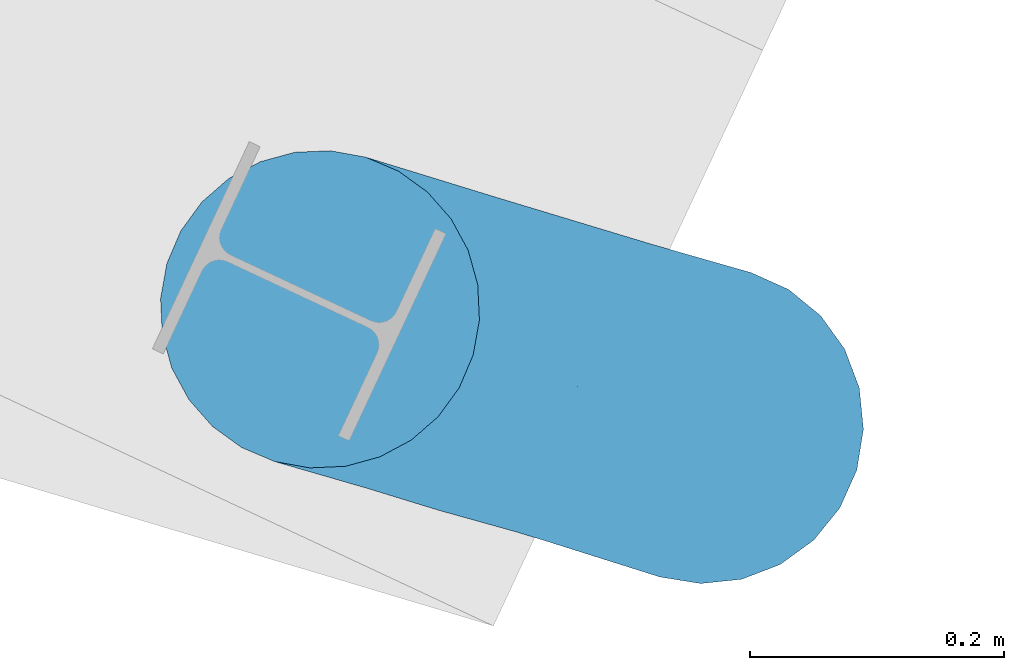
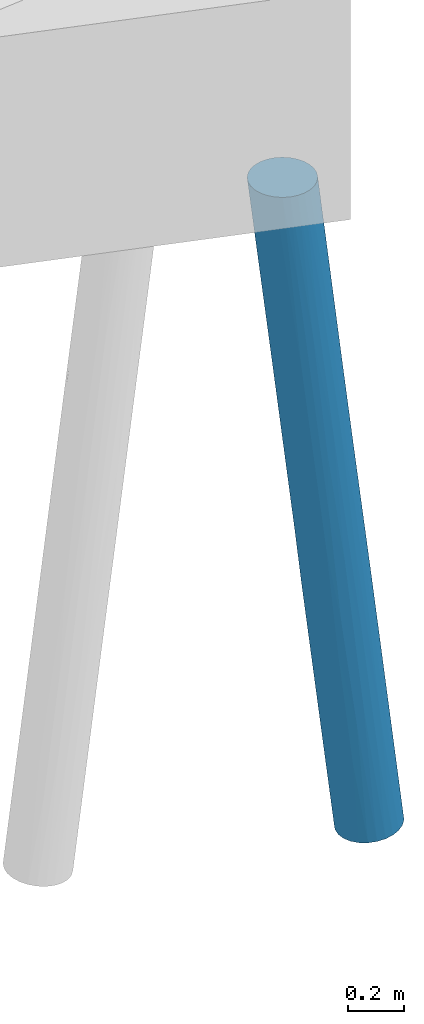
# One storey, part 18 of 46: 1 pile.
"""IFC2X3 building model written with IfcOpenShell, lengths in millimetres."""

from ifc_helpers import new_model, entity, si_unit, converted_unit, derived_unit, direction, frame, origin, place, context, subcontext, project, spatial, faceted_brep, source, transform, mapped, material, type_object, type_shapes, element, save


model = new_model("IFC2X3")

# Units and contexts
model_context = context("Model", 3, precision=0.01, world=origin(), true_north=direction((6.123233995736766e-17, 1.0)))
body_context = subcontext(model_context, "Body", "Model", "MODEL_VIEW")
ifc_project = project(units=[si_unit("LENGTHUNIT", "METRE", prefix="MILLI"), converted_unit("PLANEANGLEUNIT", "DEGREE", entity("IfcPlaneAngleMeasure", 0.017453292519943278), si_unit("PLANEANGLEUNIT", "RADIAN"), dimensions=[0, 0, 0, 0, 0, 0, 0]), si_unit("AREAUNIT", "SQUARE_METRE"), derived_unit("THERMALTRANSMITTANCEUNIT", [(si_unit("MASSUNIT", "GRAM", prefix="KILO"), 1), (si_unit("THERMODYNAMICTEMPERATUREUNIT", "KELVIN"), -1), (si_unit("TIMEUNIT", "SECOND"), -3)])], contexts=[model_context])

# Site, building, storey
site_placement = place(None, frame((-72937.88054949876, 11621.45624098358, 0.0), z_axis=(0.0, 0.0, 1.0), x_axis=(0.9346418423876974, -0.35559053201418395, 0.0)))
site = spatial("IfcSite", under=ifc_project, at=site_placement, Name="Default", CompositionType="ELEMENT")
building_placement = place(site_placement, origin())
building = spatial("IfcBuilding", under=site, at=building_placement, CompositionType="ELEMENT")
storey_placement = place(building_placement, origin())
storey = spatial("IfcBuildingStorey", under=building, at=storey_placement, Name="00 begane grond", CompositionType="ELEMENT", Elevation=0.0)

# Pile
ifc_material = material(Name="beton_gewapend_prefab-element_c45/55")
type_product = type_object("IfcTypeProduct", Name="Type 01", material=ifc_material)
shared_shape = source(origin(), body_context, "Body", "Brep", [
    faceted_brep([(72.36643070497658, 41.239861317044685, -1587.2480771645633), (115.53639022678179, 54.2354673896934, -1150.0), (124.838162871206, 27.815116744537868, -1150.0), (-182.0787577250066, 65.1457063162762, -1842.6627389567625), (-165.1894529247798, 41.33003827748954, -1588.4448595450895), (-111.09194578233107, 54.23546738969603, -1150.0), (15.031797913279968, 88.27496307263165, -1836.1297740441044), (32.98344934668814, 64.94314047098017, -1840.3127773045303), (-30.14575159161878, 64.60051474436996, -2410.3553271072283), (41.77006032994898, 0.0, -1925.992599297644), (80.6380595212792, 97.7289353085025, -1150.0), (100.55257203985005, 77.9362252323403, -1150.0), (-175.6519081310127, 115.48494156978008, -3184.035406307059), (-108.17343100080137, 106.74566752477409, -2732.5343267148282), (-180.54618184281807, 99.16916754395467, -3483.986786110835), (30.20851053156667, 121.8659890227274, -1150.0), (56.79144948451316, 112.62110848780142, -1150.0), (-42.91884640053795, 117.90464735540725, -1932.2038124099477), (-120.39371842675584, 27.81511674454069, -1150.0), (-245.70385641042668, 64.88368548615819, -2413.8437241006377), (-162.25875578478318, 88.50075404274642, -1830.9574517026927), (-242.98263969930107, 88.62069146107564, -2558.5627355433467), (-151.93048965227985, 53.33845094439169, -3561.073967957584), (-133.56769714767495, 28.49629953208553, -3474.2266886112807), (-194.4421984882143, 32.35238063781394, -4013.333582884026), (12.222467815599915, 106.275938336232, -1655.8961403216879), (-73.06982999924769, 124.27812918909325, -1949.1011896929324), (-80.64748703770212, 124.23668125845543, -1770.9263967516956), (-23.427620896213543, 124.20079095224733, -1508.6429901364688), (-240.21076201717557, 123.93060767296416, -3479.642475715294), (-314.4444444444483, 125.0, -4000.0), (-265.024992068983, 123.93060767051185, -3407.479310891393), (-117.33081280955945, 0.0, -3357.900457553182), (-190.20897761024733, 0.0, -4013.803940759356), (2.2222222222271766, 125.0, -1150.0), (-25.764066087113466, 121.86598902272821, -1150.0), (-326.96702366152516, 47.83542903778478, -3066.942589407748), (-375.2689438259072, 28.366113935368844, -3445.0277270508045), (-317.9689709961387, 23.60182842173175, -2920.157783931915), (-73.70805836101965, 23.187811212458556, -2945.6497765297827), (-39.92708990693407, 41.47720200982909, -2597.136214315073), (16.085837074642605, 41.18767244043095, -2093.938466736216), (-196.28435151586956, 123.47165352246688, -2760.095105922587), (-183.665203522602, 123.01104339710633, -3024.1067526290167), (-226.59670338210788, 88.38834764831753, -4009.7608601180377), (-252.3267110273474, 108.25317547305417, -4006.901970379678), (-148.27550792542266, 76.09517863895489, -3402.494577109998), (-206.8533741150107, 62.49999999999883, -4011.9545633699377), (-52.347005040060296, 112.62110848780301, -1150.0), (-99.40312932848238, 118.21391771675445, -1696.7443345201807), (-119.74622127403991, 106.37235269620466, -1653.229951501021), (-185.92128902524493, 102.46025049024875, -2194.904710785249), (-238.2779479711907, 106.2597512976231, -2718.3665211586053), (-42.820885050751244, 102.58547775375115, -2202.1491422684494), (-156.2252162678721, 118.09364807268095, -2204.9892079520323), (-319.0271104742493, 115.48494156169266, -3608.075760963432), (-264.72929865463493, 115.48494155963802, -3119.3954545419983), (-96.10812759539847, 77.93622523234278, -1150.0), (-76.19361507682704, 97.72893530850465, -1150.0), (-1.3402226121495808, 0.0, -2313.985145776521), (-44.451993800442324, 0.0, -2701.9910864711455), (-292.6922084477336, 91.63383624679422, -3034.349570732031), (-292.9202820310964, 72.79893776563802, -2886.1326580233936), (-227.31882224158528, 115.48494156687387, -3649.0376333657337), (-282.2899395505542, 120.74072828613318, -4003.5727227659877), (-221.60043037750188, 41.38232604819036, -2096.309657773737), (-209.76851175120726, 0.0, -1925.9934634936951), (-346.59894933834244, 120.74072828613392, -3996.4272772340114), (-376.56217786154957, 108.25317547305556, -3993.0980296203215), (-66.21715172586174, 88.15377228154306, -2568.4634430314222), (-129.97696806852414, 118.32629651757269, -2704.701988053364), (-123.5470158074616, 0.0, -1150.0), (-345.703852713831, 76.09517862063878, -3383.3196685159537), (-377.5274465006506, 52.979842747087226, -3542.5215927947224), (-275.88856858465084, 42.22399193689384, -2587.6075033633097), (-402.29218550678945, 88.38834764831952, -3990.239139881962), (-422.0355147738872, 62.50000000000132, -3988.0454366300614), (-331.8470727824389, 99.16916753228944, -3467.5525053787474), (-132.44344591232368, 124.68323586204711, -2281.458802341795), (-89.11715414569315, 71.65077909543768, -2899.5648185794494), (-96.52658231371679, 47.8354290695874, -3084.4998642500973), (127.99146025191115, 0.0, -1150.0), (-252.87925972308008, 0.0, -2313.9901952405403), (-122.93481462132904, 90.89446365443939, -3053.447507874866), (-438.679911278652, 0.0, -3986.1960592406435), (-434.4466904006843, 32.352380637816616, -3986.6664171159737), (-141.73877836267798, 124.16072599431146, -2576.5969257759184), (-210.06991733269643, 117.23436667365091, -2667.881922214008), (-367.33495948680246, 0.0, -3344.091493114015), (-295.9900076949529, 0.0, -2701.9869269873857), (-120.39371842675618, -27.815116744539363, -1150.0), (-111.09194578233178, -54.23546738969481, -1150.0), (-96.10812759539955, -77.93622523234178, -1150.0), (-76.1936150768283, -97.72893530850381, -1150.0), (-52.34700504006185, -112.62110848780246, -1150.0), (-25.76406608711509, -121.86598902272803, -1150.0), (2.222222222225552, -125.0, -1150.0), (30.20851053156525, -121.86598902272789, -1150.0), (56.79144948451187, -112.62110848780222, -1150.0), (80.63805952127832, -97.7289353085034, -1150.0), (100.55257203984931, -77.93622523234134, -1150.0), (115.53639022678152, -54.23546738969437, -1150.0), (124.83816287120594, -27.815116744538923, -1150.0), (-151.9304895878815, -53.338451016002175, -3561.073967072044), (-133.5676976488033, -28.496299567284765, -3474.2266930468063), (-96.52658225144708, -47.83542901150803, -3084.4998639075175), (-140.32328536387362, -105.94191584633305, -1832.1538289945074), (-126.78568187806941, -88.44799753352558, -1511.2211246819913), (-176.7825211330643, -87.58614607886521, -1953.453255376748), (-185.53475823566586, -41.3488976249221, -1771.6124540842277), (-98.5233768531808, -124.24251446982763, -1932.2861052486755), (-221.49211536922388, -66.66107193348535, -2205.8974607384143), (-159.3540506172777, -67.83984168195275, -1653.46778938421), (-312.10423006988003, -99.16916769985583, -3289.866922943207), (-352.8086337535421, -76.09517892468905, -3447.262699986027), (-402.2921855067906, -88.38834764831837, -3990.239139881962), (-235.41358059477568, -123.93060766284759, -3436.4678436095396), (-314.44444444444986, -125.0, -4000.0), (-282.2899395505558, -120.74072828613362, -4003.5727227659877), (-384.2243809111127, -47.83542945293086, -3582.258806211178), (-328.2998352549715, -47.83542988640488, -3078.9378969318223), (-362.94366171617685, -26.27355326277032, -3329.855963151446), (-376.562177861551, -108.25317547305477, -3993.0980296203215), (-226.59670338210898, -88.38834764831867, -4009.7608601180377), (-148.27550783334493, -76.0951785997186, -3402.49457655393), (-180.54618171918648, -99.16916751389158, -3483.9867853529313), (-104.92272192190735, -118.27912572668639, -1748.1433712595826), (-163.52036571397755, -118.46525212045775, -2280.4898650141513), (-39.927089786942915, -41.4772017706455, -2597.1362139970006), (-89.11715398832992, -71.6507788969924, -2899.5648184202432), (-221.11735801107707, -106.04994682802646, -2560.8655013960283), (-274.28881423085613, -82.15433137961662, -2785.484682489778), (-434.4466904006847, -32.35238063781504, -3986.6664171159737), (-422.03551477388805, -62.49999999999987, -3988.0454366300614), (-129.97696798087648, -118.32629644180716, -2704.7019892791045), (-141.73877802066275, -124.16072595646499, -2576.596925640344), (-180.90977316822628, -122.95522291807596, -3002.087637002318), (-232.56829871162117, -117.68101498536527, -2881.4778788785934), (-242.59310629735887, -123.930607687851, -3205.592340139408), (-180.2811496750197, -124.04234815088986, -2652.6852150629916), (-346.598949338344, -120.7407282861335, -3996.4272772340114), (-301.7888662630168, -115.48494161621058, -3452.931564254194), (-206.85337411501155, -62.50000000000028, -4011.9545633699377), (-29.559553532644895, -124.19873841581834, -1563.993853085), (-83.4987298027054, -124.18127902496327, -2050.828488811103), (-42.91884618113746, -117.90464729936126, -1932.2038118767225), (-30.14575143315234, -64.60051457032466, -2410.3553266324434), (32.983449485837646, -64.94314037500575, -1840.3127765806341), (15.03179802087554, -88.27496298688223, -1836.1297738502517), (12.222467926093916, -106.27593827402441, -1655.89614023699), (-42.820884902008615, -102.58547764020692, -2202.149142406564), (-73.70805863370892, -23.18781108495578, -2945.6497792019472), (72.36643080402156, -41.2398612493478, -1587.2480764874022), (16.08583725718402, -41.18767230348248, -2093.9384655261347), (-221.94118502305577, -91.78881553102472, -2399.105716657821), (-122.93481449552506, -90.89446347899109, -3053.447508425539), (-66.2171515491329, -88.15377212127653, -2568.463442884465), (-108.173430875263, -106.74566744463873, -2732.534326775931), (-262.27997921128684, -34.77836369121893, -2443.29023072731), (-252.32671102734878, -108.25317547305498, -4006.901970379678), (-227.31882233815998, -115.48494155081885, -3649.0376345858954), (-277.036285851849, -61.03344887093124, -2675.5040755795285), (-194.44219848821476, -32.35238063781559, -4013.333582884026), (-312.1095376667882, -26.52940126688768, -2872.8494770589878), (-175.65190824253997, -115.48494153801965, -3184.0354080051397)], [[[0, 1, 2]], [[3, 4, 5]], [[6, 7, 8]], [[0, 2, 9]], [[10, 11, 6]], [[12, 13, 14]], [[15, 16, 17]], [[18, 5, 4]], [[19, 20, 21]], [[22, 23, 24]], [[25, 16, 10]], [[26, 27, 28]], [[29, 30, 31]], [[23, 32, 33]], [[7, 6, 11]], [[34, 27, 35]], [[36, 37, 38]], [[23, 39, 32]], [[40, 8, 41]], [[31, 42, 43]], [[14, 44, 45]], [[19, 3, 20]], [[34, 15, 28]], [[46, 47, 44]], [[48, 49, 50]], [[51, 52, 21]], [[17, 25, 53]], [[46, 22, 47]], [[49, 54, 50]], [[31, 55, 56]], [[20, 57, 58]], [[41, 9, 59, 60]], [[21, 61, 62]], [[41, 7, 0]], [[63, 45, 64]], [[4, 65, 66]], [[57, 3, 5]], [[50, 51, 20]], [[55, 67, 68]], [[56, 42, 31]], [[13, 53, 69]], [[12, 70, 13]], [[66, 71, 18]], [[36, 72, 73]], [[31, 30, 67]], [[36, 38, 74]], [[21, 52, 61]], [[74, 62, 36]], [[36, 73, 37]], [[72, 75, 76]], [[72, 77, 75]], [[50, 20, 58]], [[46, 44, 14]], [[7, 41, 8]], [[42, 54, 78]], [[26, 78, 27]], [[79, 40, 80]], [[9, 2, 81]], [[82, 66, 65]], [[60, 39, 40]], [[83, 14, 13]], [[77, 68, 75]], [[84, 37, 85]], [[21, 62, 19]], [[29, 64, 30]], [[31, 43, 29]], [[83, 79, 46]], [[12, 14, 63]], [[68, 77, 55]], [[77, 61, 52]], [[64, 29, 63]], [[43, 70, 12]], [[7, 11, 1]], [[41, 0, 9]], [[1, 0, 7]], [[69, 6, 8]], [[69, 8, 79]], [[40, 79, 8]], [[18, 4, 66]], [[65, 4, 3]], [[19, 65, 3]], [[20, 3, 57]], [[65, 19, 74]], [[72, 36, 62]], [[86, 42, 78]], [[52, 87, 56]], [[69, 79, 83]], [[46, 79, 80]], [[13, 69, 83]], [[14, 83, 46]], [[6, 69, 53]], [[86, 17, 70]], [[6, 53, 25]], [[17, 53, 70]], [[6, 25, 10]], [[16, 25, 17]], [[80, 40, 39]], [[40, 41, 60]], [[80, 39, 23]], [[39, 60, 32]], [[80, 23, 22]], [[24, 23, 33]], [[80, 22, 46]], [[47, 22, 24]], [[74, 19, 62]], [[77, 72, 61]], [[62, 61, 72]], [[56, 77, 52]], [[42, 56, 87]], [[20, 51, 21]], [[51, 54, 52]], [[54, 49, 27]], [[51, 50, 54]], [[48, 50, 58]], [[53, 13, 70]], [[86, 70, 43]], [[86, 43, 42]], [[29, 43, 12]], [[67, 55, 31]], [[82, 65, 74]], [[38, 88, 89, 82]], [[88, 38, 37]], [[88, 37, 84]], [[76, 85, 73]], [[37, 73, 85]], [[76, 73, 72]], [[87, 54, 42]], [[87, 52, 54]], [[82, 74, 38]], [[56, 55, 77]], [[17, 86, 26]], [[27, 78, 54]], [[78, 26, 86]], [[15, 17, 28]], [[34, 28, 27]], [[26, 28, 17]], [[45, 63, 14]], [[12, 63, 29]], [[49, 35, 27]], [[35, 49, 48]], [[48, 58, 57, 5, 18, 71, 90, 91, 92, 93, 94, 95, 96, 97, 98, 99, 100, 101, 102, 81, 2, 1, 11, 10, 16, 15, 34, 35]], [[103, 104, 105]], [[9, 81, 102]], [[106, 107, 108]], [[91, 90, 109]], [[96, 95, 110]], [[109, 111, 112]], [[113, 114, 115]], [[116, 117, 118]], [[93, 106, 94]], [[119, 120, 121]], [[122, 113, 115]], [[112, 111, 108]], [[123, 124, 125]], [[126, 127, 110]], [[88, 84, 121]], [[90, 71, 66]], [[128, 129, 105]], [[130, 131, 113]], [[127, 126, 106]], [[119, 132, 133]], [[134, 135, 136]], [[137, 138, 139]], [[122, 140, 141]], [[124, 123, 142]], [[143, 144, 145]], [[146, 147, 148]], [[149, 150, 148]], [[114, 113, 131]], [[105, 104, 151]], [[144, 134, 145]], [[152, 153, 9]], [[113, 122, 141]], [[98, 97, 145]], [[126, 95, 94]], [[99, 148, 100]], [[137, 141, 138]], [[154, 131, 130]], [[105, 151, 128]], [[138, 140, 117]], [[138, 117, 116]], [[155, 156, 157]], [[143, 97, 96]], [[66, 158, 109]], [[159, 160, 118]], [[134, 150, 145]], [[102, 101, 152]], [[105, 124, 103]], [[109, 158, 111]], [[156, 146, 148]], [[91, 112, 92]], [[156, 155, 129]], [[101, 100, 147]], [[147, 152, 101]], [[148, 99, 149]], [[150, 157, 156]], [[111, 158, 161]], [[109, 90, 66]], [[114, 133, 115]], [[113, 141, 137]], [[125, 159, 123]], [[59, 9, 153]], [[33, 104, 162]], [[156, 129, 146]], [[136, 139, 138]], [[120, 158, 163]], [[164, 116, 160]], [[133, 114, 119]], [[111, 161, 131]], [[120, 114, 161]], [[154, 108, 111]], [[130, 113, 137]], [[141, 140, 138]], [[121, 120, 163]], [[158, 66, 82, 89]], [[159, 125, 160]], [[125, 155, 157]], [[102, 152, 9]], [[153, 152, 147]], [[146, 153, 147]], [[148, 147, 100]], [[153, 146, 128]], [[124, 105, 129]], [[137, 127, 130]], [[139, 136, 135]], [[130, 127, 106]], [[139, 144, 110]], [[139, 127, 137]], [[127, 139, 110]], [[128, 146, 129]], [[125, 124, 155]], [[129, 155, 124]], [[164, 125, 157]], [[164, 157, 134]], [[148, 150, 156]], [[157, 150, 134]], [[98, 145, 149]], [[150, 149, 145]], [[98, 149, 99]], [[109, 112, 91]], [[59, 153, 128]], [[151, 32, 60]], [[32, 151, 104]], [[32, 104, 33]], [[142, 162, 103]], [[104, 103, 162]], [[142, 103, 124]], [[106, 126, 94]], [[126, 110, 95]], [[116, 164, 136]], [[144, 135, 134]], [[134, 136, 164]], [[116, 136, 138]], [[121, 84, 132]], [[120, 119, 114]], [[119, 121, 132]], [[89, 88, 163]], [[121, 163, 88]], [[163, 158, 89]], [[128, 151, 60]], [[128, 60, 59]], [[107, 93, 92]], [[107, 92, 112]], [[130, 106, 154]], [[93, 107, 106]], [[108, 107, 112]], [[135, 144, 139]], [[96, 110, 143]], [[97, 143, 145]], [[144, 143, 110]], [[118, 160, 116]], [[164, 160, 125]], [[131, 161, 114]], [[120, 161, 158]], [[131, 154, 111]], [[108, 154, 106]], [[115, 133, 132, 84, 85, 76, 75, 68, 67, 30, 64, 45, 44, 47, 24, 33, 162, 142, 123, 159, 118, 117, 140, 122]]]),
])
type_shapes(type_product, [shared_shape])
pile_placement = place(storey_placement, frame((66542.55363493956, 14992.692519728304, 0.0), z_axis=(0.0, 0.0, 1.0), x_axis=(-0.997376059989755, -0.07239471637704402, 0.0)))
element("IfcPile", 1, at=pile_placement, inside=storey, type_object=type_product, material=ifc_material, Name="17.21_Prefab funderingspaal rond", ObjectType="prefab paal rond", PredefinedType="NOTDEFINED", context=body_context, shape_type="MappedRepresentation", body=[
    mapped(shared_shape, transform((0.0, 0.0, 0.0), scale=1.0)),
])

save(model, "model.ifc")
